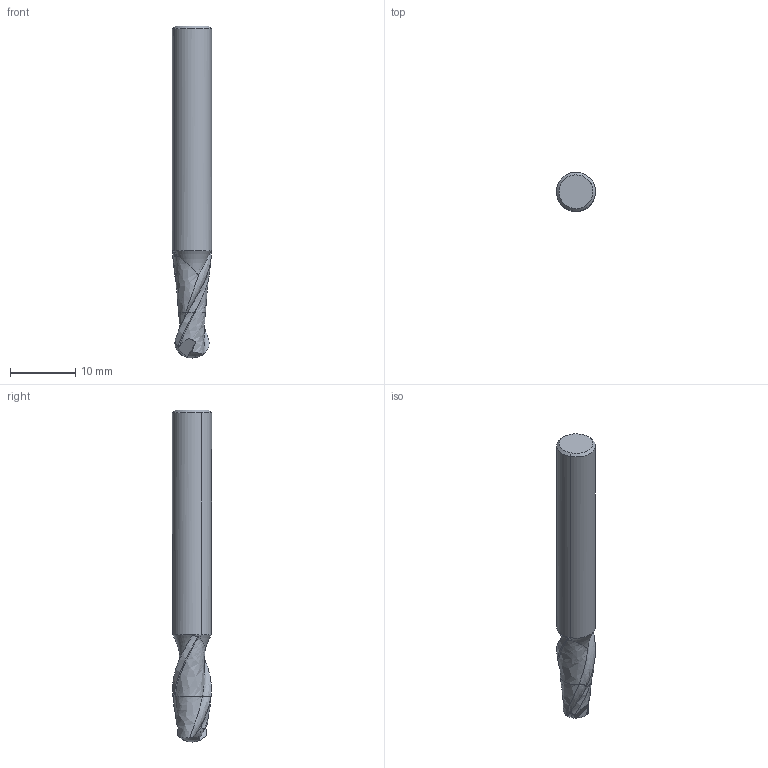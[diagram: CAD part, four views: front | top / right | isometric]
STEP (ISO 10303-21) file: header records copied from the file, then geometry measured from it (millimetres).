
FILE_DESCRIPTION(('CATIA V5 STEP','CAx-IF Rec.Pracs.--- Model Styling and Organization---1.2---2011-12-15'),'2;1');
FILE_NAME('I:\isr\design\admin8\users\weaam_s\5650741D.stp','2018-07-04T05:08:36+00:00',('none'),('none'),'CATIA Version 5 Release 21 SP 5 (IN-10)','CATIA V5 STEP AP214','none');
FILE_SCHEMA(('AUTOMOTIVE_DESIGN { 1 0 10303 214 1 1 1 1 }'));
Length unit declared in the file: millimetre
Products named in the file (1): EB-A2 06-07C06E51
Bounding box: 6 x 6 x 51 mm (x, y, z)
Volume: 1235.4 mm3; surface area: 984.1 mm2
Topology: 2 solids, 2 shells, 41 faces, 107 edges, 68 vertices
Faces by surface type: bspline 22, plane 7, torus 4, sphere 4, cone 2, cylinder 2
Entity records: 2252 total; most frequent: CARTESIAN_POINT 1398, ORIENTED_EDGE 200, EDGE_CURVE 100, DIRECTION 73, VERTEX_POINT 63, B_SPLINE_CURVE_WITH_KNOTS 62, ADVANCED_FACE 41, OVER_RIDING_STYLED_ITEM 41
